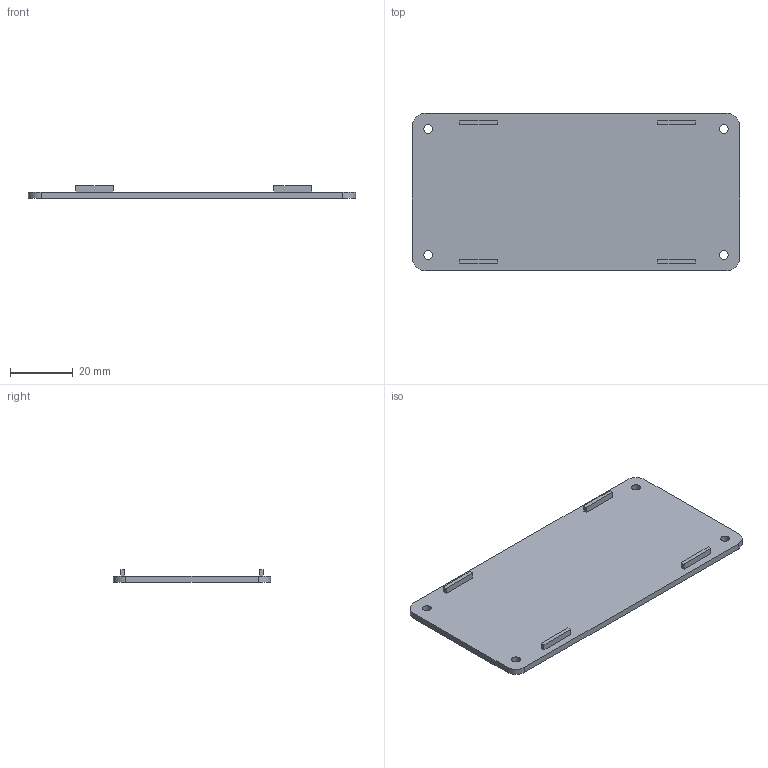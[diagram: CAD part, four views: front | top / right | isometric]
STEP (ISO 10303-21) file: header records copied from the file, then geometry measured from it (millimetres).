
FILE_DESCRIPTION(('Open CASCADE Model'),'2;1');
FILE_NAME('Open CASCADE Shape Model','2026-11-18T10:43:29',('Author'),( 'Open CASCADE'),'Open CASCADE STEP processor 7.9','Open CASCADE 7.9' ,'Unknown');
FILE_SCHEMA(('AUTOMOTIVE_DESIGN { 1 0 10303 214 1 1 1 1 }'));
Length unit declared in the file: millimetre
Products named in the file (1): Open CASCADE STEP translator 7.9 2
Bounding box: 104 x 50 x 4 mm (x, y, z)
Volume: 10438.5 mm3; surface area: 11207.1 mm2
Topology: 1 solids, 1 shells, 34 faces, 84 edges, 56 vertices
Faces by surface type: plane 26, cylinder 8
Full cylindrical faces by diameter (mm): 2.8 x4
Entity records: 2158 total; most frequent: CARTESIAN_POINT 415, DIRECTION 326, LINE 220, VECTOR 220, ORIENTED_EDGE 168, PCURVE 168, DEFINITIONAL_REPRESENTATION 168, EDGE_CURVE 84
